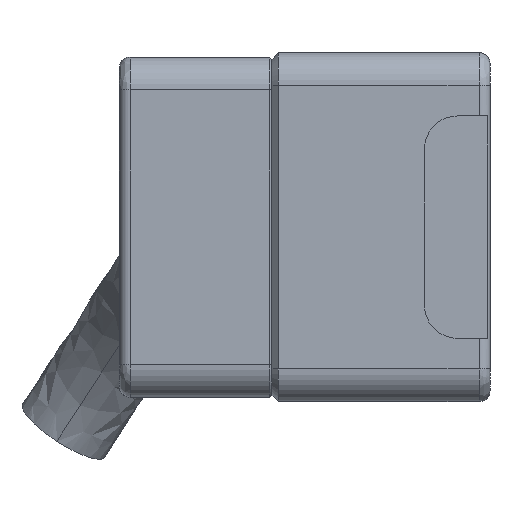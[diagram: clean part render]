
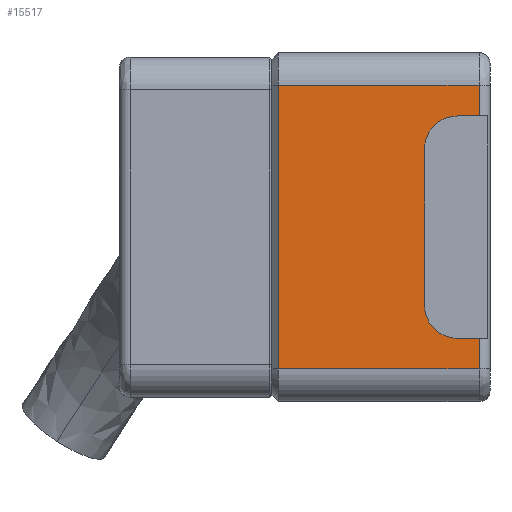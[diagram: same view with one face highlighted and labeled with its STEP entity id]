
A CAD part, left-side view. The second image highlights one B-rep face of the part: STEP entity #15517.
In plain terms, the highlighted planar face has unit normal (-1, 0, 0).
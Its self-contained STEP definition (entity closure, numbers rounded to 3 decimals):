
#673 = VERTEX_POINT ( 'NONE', #13720 ) ;
#784 = DIRECTION ( 'NONE',  ( 0., -1., 0. ) ) ;
#1006 = DIRECTION ( 'NONE',  ( 0., 0., 1. ) ) ;
#1052 = DIRECTION ( 'NONE',  ( 1., 0., 0. ) ) ;
#1359 = CARTESIAN_POINT ( 'NONE',  ( 0., 9.7, 1.5 ) ) ;
#1435 = EDGE_CURVE ( 'NONE', #9725, #16761, #3376, .T. ) ;
#1465 = VERTEX_POINT ( 'NONE', #15252 ) ;
#1611 = CARTESIAN_POINT ( 'NONE',  ( 0., 3., 4.4 ) ) ;
#1730 = EDGE_CURVE ( 'NONE', #5286, #5708, #15314, .T. ) ;
#1990 = LINE ( 'NONE', #1611, #6576 ) ;
#2769 = CARTESIAN_POINT ( 'NONE',  ( 0., 1.5, 4.4 ) ) ;
#2913 = EDGE_CURVE ( 'NONE', #673, #5708, #9878, .T. ) ;
#3376 = LINE ( 'NONE', #5605, #5773 ) ;
#3581 = DIRECTION ( 'NONE',  ( 0., 0., -1. ) ) ;
#4160 = DIRECTION ( 'NONE',  ( 0., -1., 0. ) ) ;
#4297 = AXIS2_PLACEMENT_3D ( 'NONE', #2769, #5741, #15444 ) ;
#4407 = DIRECTION ( 'NONE',  ( 0., 0., 1. ) ) ;
#4442 = EDGE_CURVE ( 'NONE', #14738, #7592, #16731, .T. ) ;
#4468 = EDGE_CURVE ( 'NONE', #14232, #1465, #1990, .T. ) ;
#4529 = VECTOR ( 'NONE', #8423, 1000. ) ;
#4822 = ORIENTED_EDGE ( 'NONE', *, *, #4442, .T. ) ;
#5286 = VERTEX_POINT ( 'NONE', #5581 ) ;
#5562 = EDGE_CURVE ( 'NONE', #7592, #14232, #6566, .T. ) ;
#5581 = CARTESIAN_POINT ( 'NONE',  ( 0., 1.5, 13.1 ) ) ;
#5605 = CARTESIAN_POINT ( 'NONE',  ( 0., -1., 1.5 ) ) ;
#5670 = DIRECTION ( 'NONE',  ( 0., 1., 0. ) ) ;
#5708 = VERTEX_POINT ( 'NONE', #8333 ) ;
#5741 = DIRECTION ( 'NONE',  ( 1., 0., 0. ) ) ;
#5773 = VECTOR ( 'NONE', #9560, 1000. ) ;
#5883 = ORIENTED_EDGE ( 'NONE', *, *, #11356, .F. ) ;
#5956 = VECTOR ( 'NONE', #4160, 1000. ) ;
#6186 = ORIENTED_EDGE ( 'NONE', *, *, #7045, .T. ) ;
#6488 = CARTESIAN_POINT ( 'NONE',  ( 0., 0.5, 2.9 ) ) ;
#6566 = CIRCLE ( 'NONE', #4297, 1.5 ) ;
#6576 = VECTOR ( 'NONE', #4407, 1000. ) ;
#6695 = FACE_OUTER_BOUND ( 'NONE', #7394, .T. ) ;
#6733 = VERTEX_POINT ( 'NONE', #7772 ) ;
#7045 = EDGE_CURVE ( 'NONE', #1465, #5286, #9044, .T. ) ;
#7168 = CARTESIAN_POINT ( 'NONE',  ( 0., -0.829, 2.9 ) ) ;
#7292 = CARTESIAN_POINT ( 'NONE',  ( 0., 1.5, 11.6 ) ) ;
#7299 = ORIENTED_EDGE ( 'NONE', *, *, #1730, .T. ) ;
#7394 = EDGE_LOOP ( 'NONE', ( #9215, #13432, #5883, #4822, #13088, #10634, #6186, #7299, #9675, #13364 ) ) ;
#7531 = DIRECTION ( 'NONE',  ( 1., 0., 0. ) ) ;
#7592 = VERTEX_POINT ( 'NONE', #16415 ) ;
#7772 = CARTESIAN_POINT ( 'NONE',  ( 0., 9.7, 14.5 ) ) ;
#8029 = LINE ( 'NONE', #11978, #14514 ) ;
#8333 = CARTESIAN_POINT ( 'NONE',  ( 0., 0.5, 13.1 ) ) ;
#8423 = DIRECTION ( 'NONE',  ( 0., 0., -1. ) ) ;
#8475 = CARTESIAN_POINT ( 'NONE',  ( 0., 0.5, 16. ) ) ;
#8806 = AXIS2_PLACEMENT_3D ( 'NONE', #9372, #1052, #10738 ) ;
#9044 = CIRCLE ( 'NONE', #9429, 1.5 ) ;
#9215 = ORIENTED_EDGE ( 'NONE', *, *, #10378, .F. ) ;
#9372 = CARTESIAN_POINT ( 'NONE',  ( 0., 0., 16. ) ) ;
#9429 = AXIS2_PLACEMENT_3D ( 'NONE', #7292, #7531, #11353 ) ;
#9560 = DIRECTION ( 'NONE',  ( 0., 1., 0. ) ) ;
#9675 = ORIENTED_EDGE ( 'NONE', *, *, #2913, .F. ) ;
#9725 = VERTEX_POINT ( 'NONE', #12953 ) ;
#9878 = LINE ( 'NONE', #11767, #15067 ) ;
#10084 = LINE ( 'NONE', #13572, #5956 ) ;
#10245 = VECTOR ( 'NONE', #5670, 1000. ) ;
#10378 = EDGE_CURVE ( 'NONE', #16761, #6733, #8029, .T. ) ;
#10563 = LINE ( 'NONE', #8475, #4529 ) ;
#10634 = ORIENTED_EDGE ( 'NONE', *, *, #4468, .T. ) ;
#10738 = DIRECTION ( 'NONE',  ( 0., 0., -1. ) ) ;
#11353 = DIRECTION ( 'NONE',  ( 0., 0., 1. ) ) ;
#11356 = EDGE_CURVE ( 'NONE', #14738, #9725, #10563, .T. ) ;
#11610 = VECTOR ( 'NONE', #784, 1000. ) ;
#11767 = CARTESIAN_POINT ( 'NONE',  ( 0., 0.5, 16. ) ) ;
#11978 = CARTESIAN_POINT ( 'NONE',  ( 0., 9.7, 16. ) ) ;
#12953 = CARTESIAN_POINT ( 'NONE',  ( 0., 0.5, 1.5 ) ) ;
#13088 = ORIENTED_EDGE ( 'NONE', *, *, #5562, .T. ) ;
#13364 = ORIENTED_EDGE ( 'NONE', *, *, #17794, .F. ) ;
#13432 = ORIENTED_EDGE ( 'NONE', *, *, #1435, .F. ) ;
#13572 = CARTESIAN_POINT ( 'NONE',  ( 0., -1., 14.5 ) ) ;
#13720 = CARTESIAN_POINT ( 'NONE',  ( 0., 0.5, 14.5 ) ) ;
#14232 = VERTEX_POINT ( 'NONE', #17653 ) ;
#14511 = CARTESIAN_POINT ( 'NONE',  ( 0., -0.829, 13.1 ) ) ;
#14514 = VECTOR ( 'NONE', #1006, 1000. ) ;
#14738 = VERTEX_POINT ( 'NONE', #6488 ) ;
#15067 = VECTOR ( 'NONE', #3581, 1000. ) ;
#15252 = CARTESIAN_POINT ( 'NONE',  ( 0., 3., 11.6 ) ) ;
#15314 = LINE ( 'NONE', #14511, #11610 ) ;
#15444 = DIRECTION ( 'NONE',  ( 0., 0., 1. ) ) ;
#15517 = ADVANCED_FACE ( 'NONE', ( #6695 ), #17630, .F. ) ;
#16415 = CARTESIAN_POINT ( 'NONE',  ( 0., 1.5, 2.9 ) ) ;
#16731 = LINE ( 'NONE', #7168, #10245 ) ;
#16761 = VERTEX_POINT ( 'NONE', #1359 ) ;
#17630 = PLANE ( 'NONE',  #8806 ) ;
#17653 = CARTESIAN_POINT ( 'NONE',  ( 0., 3., 4.4 ) ) ;
#17794 = EDGE_CURVE ( 'NONE', #6733, #673, #10084, .T. ) ;
